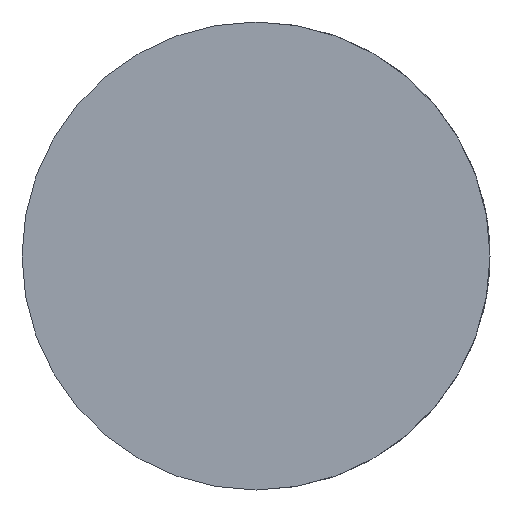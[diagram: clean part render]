
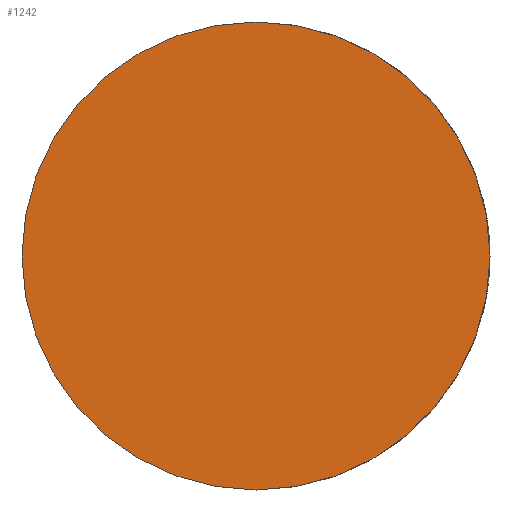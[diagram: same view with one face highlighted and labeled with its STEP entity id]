
A CAD part, front view. The second image highlights one B-rep face of the part: STEP entity #1242.
In plain terms, the highlighted planar face has unit normal (0, -1, 0).
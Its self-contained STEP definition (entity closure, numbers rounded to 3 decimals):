
#249 = DIRECTION ( 'NONE',  ( 0., 0., -1. ) ) ;
#258 = AXIS2_PLACEMENT_3D ( 'NONE', #429, #1205, #2391 ) ;
#429 = CARTESIAN_POINT ( 'NONE',  ( 0., -0.3, 0. ) ) ;
#577 = VERTEX_POINT ( 'NONE', #866 ) ;
#584 = CARTESIAN_POINT ( 'NONE',  ( 0., -0.3, -22.5 ) ) ;
#691 = CIRCLE ( 'NONE', #258, 22.5 ) ;
#785 = VERTEX_POINT ( 'NONE', #584 ) ;
#866 = CARTESIAN_POINT ( 'NONE',  ( 0., -0.3, 22.5 ) ) ;
#1014 = AXIS2_PLACEMENT_3D ( 'NONE', #2467, #1498, #2081 ) ;
#1022 = EDGE_CURVE ( 'NONE', #785, #577, #2030, .T. ) ;
#1205 = DIRECTION ( 'NONE',  ( 0., -1., 0. ) ) ;
#1242 = ADVANCED_FACE ( 'NONE', ( #2068 ), #1694, .T. ) ;
#1399 = CARTESIAN_POINT ( 'NONE',  ( 0., -0.3, 0. ) ) ;
#1498 = DIRECTION ( 'NONE',  ( 0., -1., 0. ) ) ;
#1586 = EDGE_CURVE ( 'NONE', #577, #785, #691, .T. ) ;
#1694 = PLANE ( 'NONE',  #1014 ) ;
#1769 = ORIENTED_EDGE ( 'NONE', *, *, #1022, .T. ) ;
#1849 = ORIENTED_EDGE ( 'NONE', *, *, #1586, .T. ) ;
#2030 = CIRCLE ( 'NONE', #2440, 22.5 ) ;
#2068 = FACE_OUTER_BOUND ( 'NONE', #2132, .T. ) ;
#2081 = DIRECTION ( 'NONE',  ( 0., 0., -1. ) ) ;
#2132 = EDGE_LOOP ( 'NONE', ( #1849, #1769 ) ) ;
#2169 = DIRECTION ( 'NONE',  ( 0., -1., 0. ) ) ;
#2391 = DIRECTION ( 'NONE',  ( 0., 0., -1. ) ) ;
#2440 = AXIS2_PLACEMENT_3D ( 'NONE', #1399, #2169, #249 ) ;
#2467 = CARTESIAN_POINT ( 'NONE',  ( 0., -0.3, 0. ) ) ;
